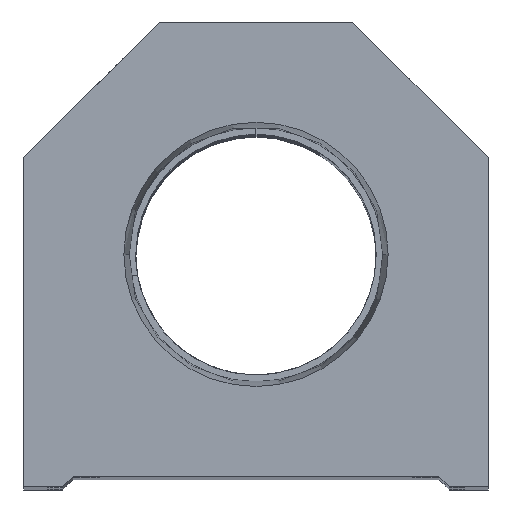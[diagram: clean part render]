
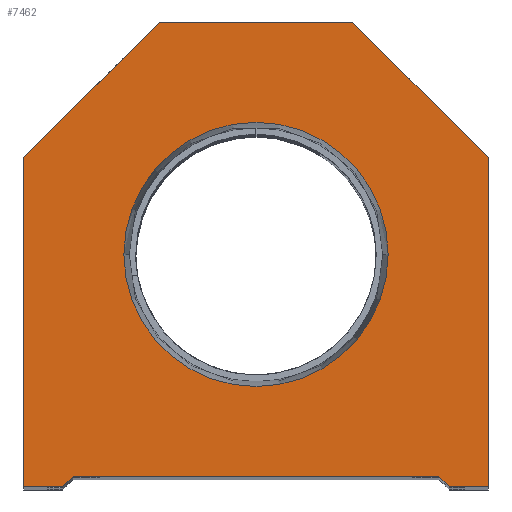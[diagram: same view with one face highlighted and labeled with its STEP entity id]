
A CAD part, top view. The second image highlights one B-rep face of the part: STEP entity #7462.
In plain terms, the highlighted planar face has unit normal (0, 0, 1).
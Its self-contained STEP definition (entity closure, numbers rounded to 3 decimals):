
#31 = CARTESIAN_POINT ( 'NONE',  ( -22.25, 0., 0. ) ) ;
#63 = VERTEX_POINT ( 'NONE', #12854 ) ;
#174 = CARTESIAN_POINT ( 'NONE',  ( 9.25, 44.5, 0. ) ) ;
#396 = ORIENTED_EDGE ( 'NONE', *, *, #2719, .T. ) ;
#653 = CARTESIAN_POINT ( 'NONE',  ( -22.25, 31.5, 0. ) ) ;
#1000 = DIRECTION ( 'NONE',  ( 0., 1., 0. ) ) ;
#1189 = LINE ( 'NONE', #6042, #9336 ) ;
#1301 = DIRECTION ( 'NONE',  ( -1., 0., 0. ) ) ;
#1539 = EDGE_CURVE ( 'NONE', #15779, #10693, #9954, .T. ) ;
#1734 = ORIENTED_EDGE ( 'NONE', *, *, #1539, .T. ) ;
#1775 = CARTESIAN_POINT ( 'NONE',  ( -9.25, 44.5, 0. ) ) ;
#1824 = EDGE_CURVE ( 'NONE', #9275, #13598, #13124, .T. ) ;
#1832 = CARTESIAN_POINT ( 'NONE',  ( -17.5, 0., 0. ) ) ;
#1876 = LINE ( 'NONE', #9573, #5572 ) ;
#1883 = ORIENTED_EDGE ( 'NONE', *, *, #10779, .F. ) ;
#2175 = ORIENTED_EDGE ( 'NONE', *, *, #15201, .T. ) ;
#2273 = CARTESIAN_POINT ( 'NONE',  ( 18.5, 0., 0. ) ) ;
#2377 = ORIENTED_EDGE ( 'NONE', *, *, #7849, .T. ) ;
#2422 = VERTEX_POINT ( 'NONE', #13323 ) ;
#2585 = VERTEX_POINT ( 'NONE', #653 ) ;
#2620 = CARTESIAN_POINT ( 'NONE',  ( -22.25, 31.5, 0. ) ) ;
#2628 = CARTESIAN_POINT ( 'NONE',  ( 12.647, 22.25, 0. ) ) ;
#2719 = EDGE_CURVE ( 'NONE', #2422, #63, #1876, .T. ) ;
#3344 = DIRECTION ( 'NONE',  ( 1., 0., 0. ) ) ;
#3361 = VERTEX_POINT ( 'NONE', #12077 ) ;
#3489 = EDGE_CURVE ( 'NONE', #10693, #6432, #1189, .T. ) ;
#3650 = VECTOR ( 'NONE', #6612, 1000. ) ;
#3737 = VERTEX_POINT ( 'NONE', #1775 ) ;
#4065 = LINE ( 'NONE', #12753, #12163 ) ;
#4418 = CARTESIAN_POINT ( 'NONE',  ( -9.25, 9.25, 0. ) ) ;
#4717 = CARTESIAN_POINT ( 'NONE',  ( -17.5, 1., 0. ) ) ;
#4819 = AXIS2_PLACEMENT_3D ( 'NONE', #14706, #4848, #3344 ) ;
#4820 = ORIENTED_EDGE ( 'NONE', *, *, #6982, .T. ) ;
#4848 = DIRECTION ( 'NONE',  ( 0., 0., 1. ) ) ;
#4937 = ORIENTED_EDGE ( 'NONE', *, *, #14832, .T. ) ;
#5013 = VECTOR ( 'NONE', #6442, 1000. ) ;
#5303 = LINE ( 'NONE', #11578, #12278 ) ;
#5572 = VECTOR ( 'NONE', #1000, 1000. ) ;
#5879 = VECTOR ( 'NONE', #8923, 1000. ) ;
#5990 = DIRECTION ( 'NONE',  ( 0., 0., 1. ) ) ;
#6042 = CARTESIAN_POINT ( 'NONE',  ( 9.25, 9.25, 0. ) ) ;
#6085 = VERTEX_POINT ( 'NONE', #2628 ) ;
#6334 = ORIENTED_EDGE ( 'NONE', *, *, #3489, .T. ) ;
#6339 = LINE ( 'NONE', #12852, #5879 ) ;
#6418 = VECTOR ( 'NONE', #8344, 1000. ) ;
#6432 = VERTEX_POINT ( 'NONE', #2273 ) ;
#6442 = DIRECTION ( 'NONE',  ( 1., 0., 0. ) ) ;
#6612 = DIRECTION ( 'NONE',  ( 1., 0., 0. ) ) ;
#6878 = ORIENTED_EDGE ( 'NONE', *, *, #7770, .F. ) ;
#6943 = EDGE_CURVE ( 'NONE', #13598, #15779, #11334, .T. ) ;
#6982 = EDGE_CURVE ( 'NONE', #2585, #9275, #5303, .T. ) ;
#7108 = FACE_BOUND ( 'NONE', #11097, .T. ) ;
#7246 = VERTEX_POINT ( 'NONE', #174 ) ;
#7327 = CARTESIAN_POINT ( 'NONE',  ( 0., 22.25, 0. ) ) ;
#7462 = ADVANCED_FACE ( 'NONE', ( #7108, #9707 ), #16291, .T. ) ;
#7467 = DIRECTION ( 'NONE',  ( 0.707, -0.707, 0. ) ) ;
#7717 = DIRECTION ( 'NONE',  ( -0.707, -0.707, 0. ) ) ;
#7758 = AXIS2_PLACEMENT_3D ( 'NONE', #7327, #5990, #8269 ) ;
#7770 = EDGE_CURVE ( 'NONE', #6085, #3361, #12293, .T. ) ;
#7849 = EDGE_CURVE ( 'NONE', #63, #7246, #6339, .T. ) ;
#8269 = DIRECTION ( 'NONE',  ( 1., 0., 0. ) ) ;
#8344 = DIRECTION ( 'NONE',  ( 0.707, 0.707, 0. ) ) ;
#8406 = AXIS2_PLACEMENT_3D ( 'NONE', #13922, #12680, #10430 ) ;
#8923 = DIRECTION ( 'NONE',  ( -0.707, 0.707, 0. ) ) ;
#9004 = ORIENTED_EDGE ( 'NONE', *, *, #1824, .T. ) ;
#9071 = DIRECTION ( 'NONE',  ( 0., -1., 0. ) ) ;
#9128 = EDGE_LOOP ( 'NONE', ( #9004, #13554, #1734, #6334, #11308, #396, #2377, #4937, #2175, #4820 ) ) ;
#9275 = VERTEX_POINT ( 'NONE', #31 ) ;
#9336 = VECTOR ( 'NONE', #7467, 1000. ) ;
#9573 = CARTESIAN_POINT ( 'NONE',  ( 22.25, 0., 0. ) ) ;
#9707 = FACE_OUTER_BOUND ( 'NONE', #9128, .T. ) ;
#9954 = LINE ( 'NONE', #12785, #5013 ) ;
#10052 = VECTOR ( 'NONE', #7717, 1000. ) ;
#10430 = DIRECTION ( 'NONE',  ( 1., 0., 0. ) ) ;
#10552 = CIRCLE ( 'NONE', #8406, 12.647 ) ;
#10617 = DIRECTION ( 'NONE',  ( 1., 0., 0. ) ) ;
#10693 = VERTEX_POINT ( 'NONE', #11631 ) ;
#10779 = EDGE_CURVE ( 'NONE', #3361, #6085, #10552, .T. ) ;
#11097 = EDGE_LOOP ( 'NONE', ( #6878, #1883 ) ) ;
#11308 = ORIENTED_EDGE ( 'NONE', *, *, #14020, .T. ) ;
#11334 = LINE ( 'NONE', #4418, #6418 ) ;
#11578 = CARTESIAN_POINT ( 'NONE',  ( -22.25, 0., 0. ) ) ;
#11631 = CARTESIAN_POINT ( 'NONE',  ( 17.5, 1., 0. ) ) ;
#11714 = VECTOR ( 'NONE', #10617, 1000. ) ;
#11798 = CARTESIAN_POINT ( 'NONE',  ( 17.5, 0., 0. ) ) ;
#12077 = CARTESIAN_POINT ( 'NONE',  ( -12.647, 22.25, 0. ) ) ;
#12163 = VECTOR ( 'NONE', #1301, 1000. ) ;
#12278 = VECTOR ( 'NONE', #9071, 1000. ) ;
#12293 = CIRCLE ( 'NONE', #7758, 12.647 ) ;
#12680 = DIRECTION ( 'NONE',  ( 0., 0., 1. ) ) ;
#12753 = CARTESIAN_POINT ( 'NONE',  ( 9.25, 44.5, 0. ) ) ;
#12785 = CARTESIAN_POINT ( 'NONE',  ( -17.5, 1., 0. ) ) ;
#12852 = CARTESIAN_POINT ( 'NONE',  ( 22.25, 31.5, 0. ) ) ;
#12854 = CARTESIAN_POINT ( 'NONE',  ( 22.25, 31.5, 0. ) ) ;
#12959 = LINE ( 'NONE', #11798, #3650 ) ;
#13124 = LINE ( 'NONE', #1832, #11714 ) ;
#13323 = CARTESIAN_POINT ( 'NONE',  ( 22.25, 0., 0. ) ) ;
#13554 = ORIENTED_EDGE ( 'NONE', *, *, #6943, .T. ) ;
#13598 = VERTEX_POINT ( 'NONE', #16107 ) ;
#13922 = CARTESIAN_POINT ( 'NONE',  ( 0., 22.25, 0. ) ) ;
#14020 = EDGE_CURVE ( 'NONE', #6432, #2422, #12959, .T. ) ;
#14056 = LINE ( 'NONE', #2620, #10052 ) ;
#14706 = CARTESIAN_POINT ( 'NONE',  ( 0., 0., 0. ) ) ;
#14832 = EDGE_CURVE ( 'NONE', #7246, #3737, #4065, .T. ) ;
#15201 = EDGE_CURVE ( 'NONE', #3737, #2585, #14056, .T. ) ;
#15779 = VERTEX_POINT ( 'NONE', #4717 ) ;
#16107 = CARTESIAN_POINT ( 'NONE',  ( -18.5, 0., 0. ) ) ;
#16291 = PLANE ( 'NONE',  #4819 ) ;
